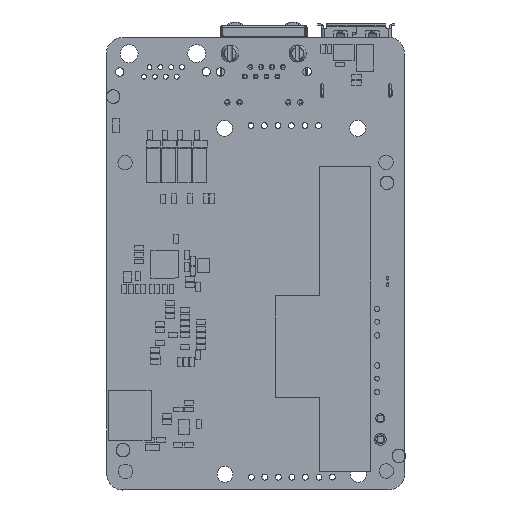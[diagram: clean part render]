
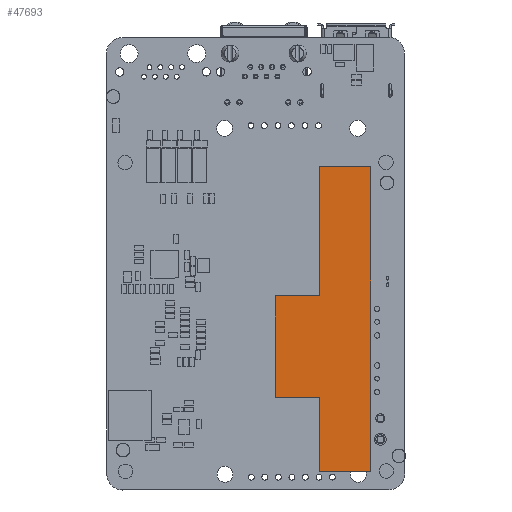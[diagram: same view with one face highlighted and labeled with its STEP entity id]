
A CAD part, front view. The second image highlights one B-rep face of the part: STEP entity #47693.
In plain terms, the highlighted planar face has unit normal (0, -1, 0) as drawn and (0, 0, 1) by its records, which use the part's own axes.
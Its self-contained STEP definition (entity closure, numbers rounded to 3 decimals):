
#46344=DIRECTION('',(0.,-1.,0.));
#46345=VECTOR('',#46344,9.6);
#46346=CARTESIAN_POINT('',(0.,0.,14.));
#46347=LINE('',#46346,#46345);
#46352=DIRECTION('',(0.,1.,0.));
#46353=VECTOR('',#46352,9.6);
#46354=CARTESIAN_POINT('',(57.3,-9.6,14.));
#46355=LINE('',#46354,#46353);
#46360=DIRECTION('',(1.,0.,0.));
#46361=VECTOR('',#46360,14.);
#46362=CARTESIAN_POINT('',(43.3,-9.6,14.));
#46363=LINE('',#46362,#46361);
#46368=DIRECTION('',(0.,-1.,0.));
#46369=VECTOR('',#46368,8.4);
#46370=CARTESIAN_POINT('',(43.3,-9.6,14.));
#46371=LINE('',#46370,#46369);
#46380=DIRECTION('',(-1.,0.,0.));
#46381=VECTOR('',#46380,19.);
#46382=CARTESIAN_POINT('',(43.3,-18.,14.));
#46383=LINE('',#46382,#46381);
#46396=DIRECTION('',(0.,1.,0.));
#46397=VECTOR('',#46396,8.4);
#46398=CARTESIAN_POINT('',(24.3,-18.,14.));
#46399=LINE('',#46398,#46397);
#46412=DIRECTION('',(1.,0.,0.));
#46413=VECTOR('',#46412,24.3);
#46414=CARTESIAN_POINT('',(0.,-9.6,14.));
#46415=LINE('',#46414,#46413);
#46428=DIRECTION('',(1.,0.,0.));
#46429=VECTOR('',#46428,57.3);
#46430=CARTESIAN_POINT('',(0.,0.,14.));
#46431=LINE('',#46430,#46429);
#47308=CARTESIAN_POINT('',(0.,0.,14.));
#47309=CARTESIAN_POINT('',(0.,-9.6,14.));
#47310=VERTEX_POINT('',#47308);
#47311=VERTEX_POINT('',#47309);
#47312=CARTESIAN_POINT('',(57.3,-9.6,14.));
#47313=CARTESIAN_POINT('',(57.3,0.,14.));
#47314=VERTEX_POINT('',#47312);
#47315=VERTEX_POINT('',#47313);
#47316=CARTESIAN_POINT('',(43.3,-9.6,14.));
#47317=VERTEX_POINT('',#47316);
#47318=CARTESIAN_POINT('',(43.3,-18.,14.));
#47319=VERTEX_POINT('',#47318);
#47320=CARTESIAN_POINT('',(24.3,-18.,14.));
#47321=VERTEX_POINT('',#47320);
#47322=CARTESIAN_POINT('',(24.3,-9.6,14.));
#47323=VERTEX_POINT('',#47322);
#47671=CARTESIAN_POINT('',(28.65,-9.,14.));
#47672=DIRECTION('',(0.,0.,1.));
#47673=DIRECTION('',(0.,-1.,0.));
#47674=AXIS2_PLACEMENT_3D('',#47671,#47672,#47673);
#47675=PLANE('',#47674);
#47677=ORIENTED_EDGE('',*,*,#47676,.F.);
#47679=ORIENTED_EDGE('',*,*,#47678,.F.);
#47681=ORIENTED_EDGE('',*,*,#47680,.T.);
#47683=ORIENTED_EDGE('',*,*,#47682,.T.);
#47685=ORIENTED_EDGE('',*,*,#47684,.T.);
#47687=ORIENTED_EDGE('',*,*,#47686,.F.);
#47688=ORIENTED_EDGE('',*,*,#47661,.F.);
#47690=ORIENTED_EDGE('',*,*,#47689,.T.);
#47691=EDGE_LOOP('',(#47677,#47679,#47681,#47683,#47685,#47687,#47688,#47690));
#47692=FACE_OUTER_BOUND('',#47691,.F.);
#47693=ADVANCED_FACE('',(#47692),#47675,.T.);
#47661=EDGE_CURVE('',#47310,#47311,#46347,.T.);
#47676=EDGE_CURVE('',#47314,#47315,#46355,.T.);
#47678=EDGE_CURVE('',#47317,#47314,#46363,.T.);
#47680=EDGE_CURVE('',#47317,#47319,#46371,.T.);
#47682=EDGE_CURVE('',#47319,#47321,#46383,.T.);
#47684=EDGE_CURVE('',#47321,#47323,#46399,.T.);
#47686=EDGE_CURVE('',#47311,#47323,#46415,.T.);
#47689=EDGE_CURVE('',#47310,#47315,#46431,.T.);
